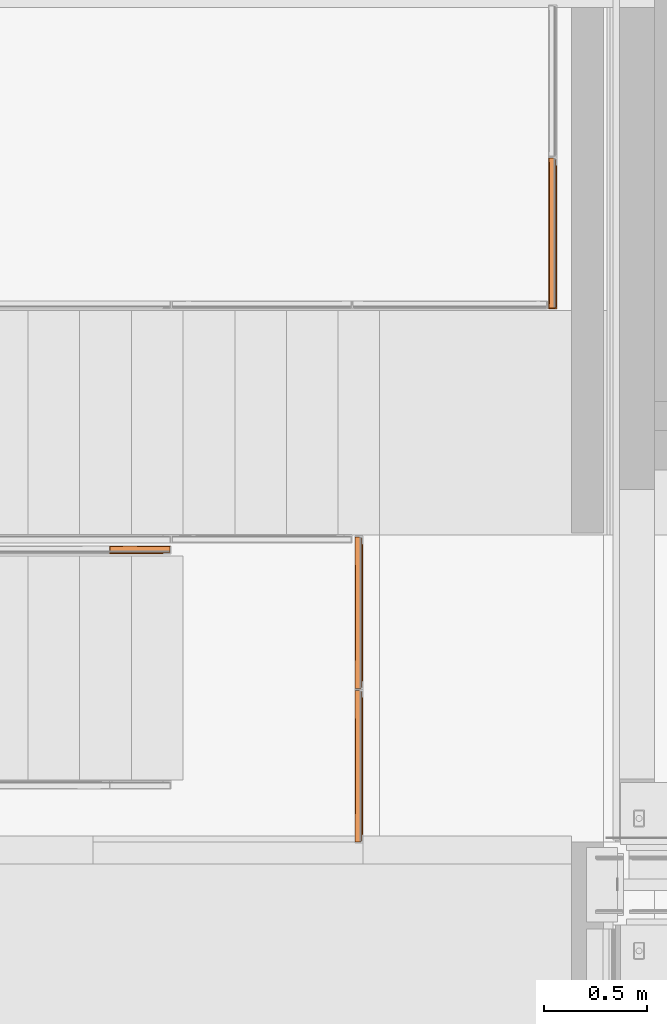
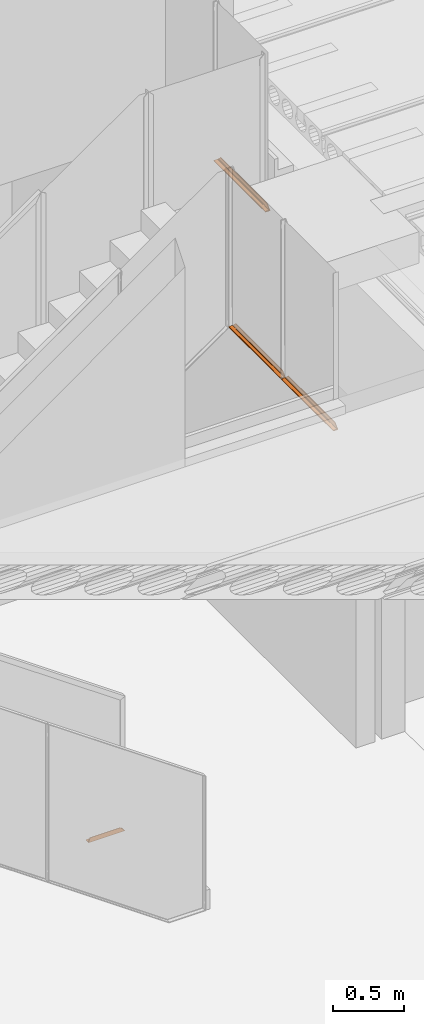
# One storey, part 229 of 230: 4 proxies.
"""IFC4X3_ADD2 building model written with IfcOpenShell, lengths in millimetres."""

from ifc_helpers import new_model, si_unit, direction, origin_with_axes, place, context, subcontext, project, spatial, triangles, source, transform, mapped, material, type_object, type_shapes, element, save


model = new_model("IFC4X3_ADD2")

# Units and contexts
model_context = context("Model", 3, precision=1e-05, world=origin_with_axes(), true_north=direction((0.0, 1.0)))
body_context = subcontext(model_context, "Body", "Model", "MODEL_VIEW")
ifc_project = project(units=[si_unit("LENGTHUNIT", "METRE", prefix="MILLI"), si_unit("AREAUNIT", "SQUARE_METRE"), si_unit("VOLUMEUNIT", "CUBIC_METRE"), si_unit("PLANEANGLEUNIT", "RADIAN"), si_unit("TIMEUNIT", "SECOND"), si_unit("MASSUNIT", "GRAM")], contexts=[model_context])

# Site, building, storey
site_placement = place(None, origin_with_axes())
site = spatial("IfcSite", under=ifc_project, at=site_placement, Name="Site", CompositionType="ELEMENT")
building_placement = place(site_placement, origin_with_axes())
building = spatial("IfcBuilding", under=site, at=building_placement, Name="IFC Building Story")
storey_placement = place(building_placement, origin_with_axes())
storey = spatial("IfcBuildingStorey", under=building, at=storey_placement, Name="ETAGE 00 (0)", Elevation=0.0)

# Proxies
ifc_material = material(Name="<Unnamed>")
building_element_proxy_type_1 = type_object("IfcBuildingElementProxyType", Name="15", PredefinedType="NOTDEFINED")
shared_shape_1 = source(origin_with_axes(), body_context, "Body", "Tessellation", [
    triangles([(37328.300592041, 1795.31745071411, 69.8795009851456), (37328.0215393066, 1796.70036048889, 69.000639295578), (37328.3377990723, 1794.49991340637, 69.9999969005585), (37328.3377990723, 1792.50003547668, 69.9999969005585), (37327.3913452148, 1797.50002098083, 66.99999833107), (37328.1959472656, 1796.05359764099, 69.5526677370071), (37328.1494384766, 1796.27960128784, 69.401514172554), (37327.9285217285, 1796.95703086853, 68.7029648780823), (37327.8006225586, 1797.17373275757, 68.297307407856), (37327.9889831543, 1796.80922012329, 68.8969392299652), (37327.6378417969, 1797.39450416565, 67.7778623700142), (37319.1941711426, 1797.50002098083, 41.00000013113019), (37315.7246154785, 1792.50003547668, 30.000001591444), (37327.7238830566, 1797.30250396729, 68.0561838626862), (37318.7732666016, 1797.65044784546, 39.6648754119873), (37318.3732910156, 1798.09417076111, 38.3966979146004), (37317.2082458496, 1830.80162200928, 34.7029076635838), (37317.0966247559, 1831.3704826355, 34.3454939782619), (37317.3012634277, 1829.49995727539, 35.0000007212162), (37316.9454711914, 1831.8454536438, 33.8704707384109), (37317.27800903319, 1830.1675037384, 34.9247850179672), (37316.7664123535, 1832.20284461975, 33.3016509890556), (37318.0151733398, 1798.80895271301, 37.2590606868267), (37317.7151916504, 1799.75904006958, 36.3090119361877), (37317.4896240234, 1800.89661598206, 35.5941868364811), (37317.3500976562, 1802.1648525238, 35.1504321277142), (37316.5664245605, 1832.42477874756, 32.6675622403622), (37316.3571350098, 1832.49991950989, 31.9999998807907), (37315.7246154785, 1832.49991950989, 30.000001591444), (37317.3012634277, 1803.49994544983, 35.0000007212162), (37574.190234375, 1794.49991340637, 69.9999969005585), (37574.190234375, 1792.50003547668, 69.9999969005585), (37575.8854797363, 1797.18899345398, 68.3050967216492), (37576.2040649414, 1797.3288105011, 67.9853851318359), (37575.1785461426, 1796.70951690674, 69.0104542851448), (37574.9948364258, 1796.52973136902, 69.1944274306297), (37574.6436950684, 1796.04749336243, 69.5449283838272), (37574.3111572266, 1795.31686935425, 69.8789695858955), (37574.4971923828, 1795.80913581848, 69.6912039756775), (37574.2344177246, 1795.0040977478, 69.9561723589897), (37577.1900512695, 1797.50002098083, 66.99999833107), (37603.18846435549, 1797.50002098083, 41.00000013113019), (37614.1901184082, 1832.49991950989, 30.000001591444), (37612.1902404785, 1832.49991950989, 31.9999998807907), (37614.1901184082, 1792.50003547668, 30.000001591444), (37610.8879943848, 1832.20284461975, 33.3016509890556), (37611.5228393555, 1832.42477874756, 32.6675622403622), (37609.8438720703, 1831.3704826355, 34.3454939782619), (37610.3182617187, 1831.8454536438, 33.8704707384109), (37609.2648376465, 1830.1675037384, 34.9247850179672), (37609.4857543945, 1830.80162200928, 34.7029076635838), (37609.190423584, 1829.49995727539, 35.0000007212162), (37609.0392700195, 1802.1648525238, 35.1504321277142), (37609.1508911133, 1802.82818412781, 35.0377277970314), (37608.595111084, 1800.89661598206, 35.5941868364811), (37608.8532348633, 1801.51823501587, 35.3367011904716), (37604.525592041, 1797.65044784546, 39.6648754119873), (37605.792956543, 1798.09417076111, 38.3966979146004), (37606.9300964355, 1798.80895271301, 37.2590606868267), (37607.8812011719, 1799.75904006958, 36.3090119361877), (37609.190423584, 1803.49994544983, 35.0000007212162)], [[1, 2, 3], [4, 3, 5], [2, 1, 6], [7, 2, 6], [8, 9, 10], [9, 5, 3], [11, 5, 9], [12, 4, 5], [13, 4, 12], [9, 14, 11], [3, 10, 9], [12, 15, 13], [15, 16, 13], [17, 18, 19], [20, 19, 18], [19, 21, 17], [22, 19, 20], [23, 24, 13], [25, 26, 13], [24, 25, 13], [27, 28, 19], [29, 30, 19], [19, 28, 29], [29, 13, 30], [19, 22, 27], [30, 13, 26], [16, 23, 13], [31, 32, 4], [4, 3, 31], [33, 14, 11], [33, 11, 5], [33, 9, 14], [5, 34, 33], [35, 8, 9], [9, 33, 35], [35, 10, 8], [35, 36, 10], [37, 7, 10], [10, 36, 37], [37, 6, 7], [38, 1, 6], [6, 39, 38], [40, 31, 1], [31, 3, 1], [1, 38, 40], [5, 41, 34], [42, 41, 12], [5, 12, 41], [43, 44, 29], [28, 29, 44], [32, 45, 13], [13, 4, 32], [13, 45, 29], [43, 29, 45], [46, 27, 28], [28, 47, 46], [46, 22, 27], [48, 20, 22], [22, 49, 48], [48, 18, 20], [50, 17, 18], [18, 51, 50], [50, 21, 17], [19, 21, 52], [50, 52, 21], [18, 48, 51], [22, 46, 49], [28, 44, 47], [53, 26, 30], [30, 54, 53], [55, 25, 26], [26, 56, 55], [12, 15, 42], [57, 42, 15], [15, 16, 57], [58, 57, 16], [16, 23, 58], [59, 58, 23], [23, 24, 59], [60, 59, 24], [24, 25, 60], [55, 60, 25], [26, 53, 56], [30, 61, 54], [52, 61, 30], [30, 19, 52], [45, 53, 54], [53, 45, 56], [54, 61, 45], [45, 61, 43], [59, 60, 45], [55, 56, 45], [60, 55, 45], [45, 58, 59], [52, 46, 47], [52, 47, 44], [52, 44, 43], [52, 50, 51], [52, 48, 49], [48, 52, 51], [52, 49, 46], [43, 61, 52], [38, 39, 37], [38, 37, 31], [40, 38, 31], [32, 31, 34], [31, 37, 36], [42, 32, 41], [57, 58, 45], [57, 45, 42], [35, 33, 31], [34, 31, 33], [34, 41, 32], [31, 36, 35], [42, 45, 32]]),
])
type_shapes(building_element_proxy_type_1, [shared_shape_1])
proxy_1_placement = place(storey_placement, origin_with_axes())
element("IfcBuildingElementProxy", 1, at=proxy_1_placement, inside=storey, type_object=building_element_proxy_type_1, material=ifc_material, Name="8:2784", ObjectType="8:2784", context=body_context, shape_type="MappedRepresentation", body=[
    mapped(shared_shape_1, transform((0.0, 0.0, 0.0))),
])
building_element_proxy_type_2 = type_object("IfcBuildingElementProxyType", Name="87", PredefinedType="NOTDEFINED")
shared_shape_2 = source(origin_with_axes(), body_context, "Body", "Tessellation", [
    triangles([(38542.1195251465, 1840.42894134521, 4039.99991455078), (38542.1195251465, 1178.701745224, 4039.99991455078), (38540.1173217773, 1178.701745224, 4039.99991455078), (38540.1173217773, 1840.42894134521, 4039.99991455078), (38542.1195251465, 1138.70178852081, 4000.00003051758), (38537.1175048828, 1149.70177116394, 4010.99994049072), (38536.959375, 1148.6176076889, 4009.9157043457), (38537.1175048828, 1175.7017829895, 4037.00009765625), (38535.6664306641, 1145.69089679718, 4006.98913879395), (38536.1059387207, 1146.33635158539, 4007.63444824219), (38536.6338134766, 1147.74280643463, 4009.0410484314), (38535.522253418, 1145.47979049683, 4006.77781448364), (38537.4151611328, 1176.95105266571, 4038.24914932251), (38539.5778198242, 1178.70261726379, 4040.00078659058), (38538.7453125, 1178.47734031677, 4039.77550964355), (38537.8616455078, 1177.70311431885, 4039.0014289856), (38531.1178710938, 1143.70177402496, 4005.00001602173), (38532.1340881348, 1143.69508838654, 4004.9933303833), (38505.1194580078, 1143.70177402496, 4005.00001602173), (38502.9521484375, 1142.85480537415, 4004.15297470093), (38503.745123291, 1143.47671508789, 4004.77502975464), (38502.1173156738, 1140.70173912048, 4001.99990844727), (38502.4126464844, 1141.94933738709, 4003.24750671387), (38502.1219665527, 1138.70178852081, 4000.00003051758), (38534.6083557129, 1144.60150108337, 4005.89967041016), (38533.8060791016, 1144.21119060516, 4005.50928726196), (38504.5776306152, 1143.70235538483, 4005.00059738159), (38533.0875183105, 1143.86121196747, 4005.15930862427), (38502.1173156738, 1880.42882537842, 4000.00003051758), (38502.1149902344, 1878.42894744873, 4001.99990844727), (38502.1173156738, 1694.55964736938, 4001.99990844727), (38502.1196411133, 1324.57103919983, 4001.99990844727), (38503.6335021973, 1325.6227191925, 4003.53150100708), (38505.1194580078, 1875.42883987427, 4004.999143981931), (38503.621875, 1693.51726913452, 4003.51464157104), (38503.5753662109, 1509.56541595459, 4003.46987686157), (38504.5218200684, 1875.4805809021, 4004.9482749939), (38503.6916381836, 1875.76442985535, 4004.66457138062), (38502.8754089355, 1876.48778686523, 4003.94106903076), (38502.7103027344, 1876.63385353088, 4003.79514770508), (38502.8614562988, 1142.70263442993, 4004.00094909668), (38542.1195251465, 1880.42882537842, 4000.00003051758), (38538.622064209, 1676.0168838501, 4038.51512145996), (38538.5755554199, 1509.56556129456, 4038.47035675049), (38538.6336914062, 1343.12324981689, 4038.52907409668), (38539.52200927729, 1840.48068237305, 4039.94817352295), (38538.6918273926, 1840.76438598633, 4039.66446990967), (38537.2895874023, 1842.45716056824, 4037.97184066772), (38537.7104919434, 1841.63380966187, 4038.79504623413), (38537.1175048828, 1677.05955276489, 4037.00009765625), (38537.8755981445, 1841.48774299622, 4038.94096755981), (38537.1175048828, 1342.07113380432, 4037.00009765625), (38537.1175048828, 1843.42890357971, 4037.00009765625), (38537.1175048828, 1689.49716567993, 4010.99994049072), (38537.1175048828, 1869.42891540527, 4010.99994049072), (38535.47109375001, 1509.54477767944, 4006.81850967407), (38531.1876342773, 1693.60767059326, 4005.0218170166), (38535.6315490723, 1873.33521766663, 4007.0934928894), (38534.2874450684, 1874.57685699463, 4005.85199890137), (38535.3176147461, 1873.75583152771, 4006.67316970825), (38533.7921264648, 1874.8172492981, 4005.6116065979), (38536.610559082, 1509.5747177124, 4008.89047622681), (38531.1876342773, 1325.5202545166, 4005.02036361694), (38533.3944763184, 1509.55422477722, 4005.94210968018), (38531.1178710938, 1509.56527061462, 4005.00001602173), (38533.2991333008, 1875.0570602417, 4005.3717956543), (38532.2457092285, 1875.33654899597, 4005.09216156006), (38536.3012756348, 1872.4410861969, 4007.98791503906), (38537.0175109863, 1870.47376441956, 4009.95494613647), (38536.6547424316, 1690.78662185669, 4008.92390441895), (38531.1178710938, 1875.42883987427, 4005.00001602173)], [[1, 2, 3], [3, 4, 1], [2, 5, 6], [6, 5, 7], [2, 6, 8], [9, 10, 5], [7, 5, 11], [11, 5, 10], [5, 12, 9], [3, 2, 13], [14, 3, 15], [16, 15, 3], [16, 3, 13], [2, 8, 13], [5, 17, 18], [19, 20, 21], [22, 23, 19], [23, 20, 19], [24, 22, 19], [5, 24, 17], [25, 12, 5], [25, 5, 26], [19, 17, 24], [19, 21, 27], [5, 28, 26], [18, 28, 5], [29, 30, 31], [29, 31, 24], [32, 22, 24], [32, 24, 31], [33, 27, 21], [33, 19, 27], [34, 35, 36], [36, 33, 19], [36, 19, 34], [33, 21, 20], [35, 37, 34], [35, 38, 37], [39, 35, 31], [31, 40, 39], [32, 41, 23], [32, 23, 22], [31, 35, 36], [36, 33, 32], [36, 32, 31], [41, 32, 33], [31, 30, 40], [35, 39, 38], [29, 24, 42], [5, 42, 24], [5, 2, 1], [1, 42, 5], [4, 43, 44], [44, 45, 3], [44, 3, 4], [3, 14, 45], [45, 14, 15], [45, 15, 16], [43, 46, 4], [43, 47, 46], [48, 49, 50], [51, 43, 50], [50, 49, 51], [52, 16, 13], [52, 13, 8], [50, 43, 44], [44, 45, 52], [44, 52, 50], [16, 52, 45], [50, 53, 48], [43, 51, 47], [6, 52, 8], [52, 6, 54], [54, 55, 53], [53, 50, 54], [54, 50, 52], [56, 57, 58], [59, 60, 57], [60, 58, 57], [57, 61, 59], [54, 6, 62], [63, 25, 26], [63, 12, 25], [63, 64, 56], [56, 9, 63], [62, 6, 7], [62, 7, 11], [57, 64, 65], [57, 66, 61], [57, 67, 66], [68, 69, 70], [58, 70, 56], [62, 70, 56], [56, 11, 62], [55, 54, 70], [70, 69, 55], [56, 11, 10], [56, 10, 9], [63, 26, 28], [63, 28, 18], [18, 17, 63], [65, 64, 63], [70, 58, 68], [57, 71, 67], [63, 9, 12], [62, 70, 54], [56, 64, 57], [19, 34, 65], [65, 34, 57], [19, 65, 63], [71, 57, 34], [63, 17, 19], [4, 48, 1], [47, 4, 46], [48, 4, 51], [51, 4, 47], [48, 51, 49], [53, 55, 1], [53, 1, 48], [1, 55, 42], [55, 69, 42], [68, 58, 42], [69, 68, 42], [42, 58, 60], [61, 66, 42], [60, 59, 42], [71, 29, 42], [66, 67, 42], [61, 42, 59], [34, 37, 38], [34, 38, 39], [39, 40, 30], [29, 34, 30], [30, 34, 39], [34, 29, 71], [71, 42, 67]]),
])
type_shapes(building_element_proxy_type_2, [shared_shape_2])
proxy_2_placement = place(storey_placement, origin_with_axes())
element("IfcBuildingElementProxy", 2, at=proxy_2_placement, inside=storey, type_object=building_element_proxy_type_2, material=ifc_material, Name="44", ObjectType="44", context=body_context, shape_type="MappedRepresentation", body=[
    mapped(shared_shape_2, transform((0.0, 0.0, 0.0))),
])
building_element_proxy_type_3 = type_object("IfcBuildingElementProxyType", Name="89", PredefinedType="NOTDEFINED")
shared_shape_3 = source(origin_with_axes(), body_context, "Body", "Tessellation", [
    triangles([(38542.1195251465, 436.974672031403, 4039.99991455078), (38540.1173217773, 436.974672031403, 4039.99991455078), (38542.1195251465, 1098.70175914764, 4039.99991455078), (38540.1173217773, 1098.70175914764, 4039.99991455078), (38537.2895874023, 1100.72997837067, 4037.97184066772), (38538.6918273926, 1099.03727645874, 4039.66446990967), (38539.52200927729, 1098.75350017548, 4039.94817352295), (38537.8755981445, 1099.76063346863, 4038.94096755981), (38537.7104919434, 1099.90670013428, 4038.79504623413), (38537.1175048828, 1101.70179405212, 4037.00009765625), (38537.1175048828, 1127.70180587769, 4010.99994049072), (38542.1195251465, 1138.70178852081, 4000.00003051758), (38537.0175109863, 1128.74665489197, 4009.95494613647), (38536.3012756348, 1130.71397666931, 4007.98791503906), (38535.6315490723, 1131.60810813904, 4007.0934928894), (38535.3176147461, 1132.02864933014, 4006.67316970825), (38533.7921264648, 1133.09021244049, 4005.6116065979), (38533.2991333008, 1133.33002338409, 4005.3717956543), (38534.2874450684, 1132.84974746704, 4005.85199890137), (38531.1178710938, 1133.70180301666, 4005.00001602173), (38502.1149902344, 1138.70178852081, 4000.00003051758), (38532.2457092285, 1133.60943946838, 4005.09216156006), (38505.1194580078, 1133.70180301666, 4005.00001602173), (38504.5218200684, 1133.75347137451, 4004.9482749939), (38503.6916381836, 1134.03724765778, 4004.66457138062), (38502.8754089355, 1134.76067733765, 4003.94106903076), (38502.7103027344, 1134.9067440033, 4003.79514770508), (38502.1173156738, 1136.70176525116, 4001.99990844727), (38502.1173156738, 952.832465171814, 4001.99990844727), (38502.1196411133, 396.974642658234, 4000.00003051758), (38502.1196411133, 582.843966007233, 4001.99990844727), (38502.1196411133, 398.974665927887, 4001.99990844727), (38503.6335021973, 583.895645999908, 4003.53121032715), (38504.5776306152, 401.975354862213, 4005.00059738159), (38503.745123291, 401.749641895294, 4004.77502975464), (38505.1194580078, 401.97477350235, 4005.00001602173), (38503.6242004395, 951.790232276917, 4003.51464157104), (38503.5776916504, 767.838379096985, 4003.46958618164), (38502.9521484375, 401.127732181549, 4004.15297470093), (38502.8614562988, 400.975561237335, 4004.00094909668), (38502.4126464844, 400.222264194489, 4003.24750671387), (38542.1195251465, 396.974642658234, 4000.00003051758), (38538.622064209, 934.289846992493, 4038.51512145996), (38538.5755554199, 767.838379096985, 4038.47035675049), (38538.6336914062, 601.396031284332, 4038.52907409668), (38539.5778198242, 436.975544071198, 4040.00078659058), (38538.7453125, 436.750267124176, 4039.77550964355), (38537.9523376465, 436.129520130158, 4039.1549079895), (38537.1175048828, 935.332515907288, 4037.00009765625), (38537.1175048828, 600.343915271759, 4037.00009765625), (38537.8616455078, 435.976041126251, 4039.0014289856), (38537.4151611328, 435.223906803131, 4038.24914932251), (38537.1175048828, 433.974709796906, 4037.00009765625), (38537.1175048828, 407.974697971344, 4010.99994049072), (38537.1175048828, 947.7699834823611, 4010.99994049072), (38535.47109375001, 767.8176681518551, 4006.81850967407), (38531.1876342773, 951.880561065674, 4005.0218170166), (38536.610559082, 767.847608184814, 4008.89047622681), (38531.1876342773, 583.793181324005, 4005.02036361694), (38534.6083557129, 402.874427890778, 4005.89967041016), (38533.8060791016, 402.48419008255, 4005.50928726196), (38535.522253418, 403.75271730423, 4006.77781448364), (38533.3944763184, 767.8271152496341, 4005.94210968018), (38535.6664306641, 403.963750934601, 4006.98913879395), (38536.959375, 406.890461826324, 4009.9157043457), (38536.6338134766, 406.015805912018, 4009.0410484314), (38531.1178710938, 767.838233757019, 4005.00001602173), (38536.6547424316, 949.059439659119, 4008.92390441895), (38536.1059387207, 404.609351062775, 4007.63444824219), (38533.0875183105, 402.134211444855, 4005.15930862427), (38532.1340881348, 401.9680878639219, 4004.9933303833), (38531.1178710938, 401.97477350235, 4005.00001602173)], [[1, 2, 3], [4, 3, 2], [4, 5, 3], [6, 4, 7], [5, 4, 8], [8, 4, 6], [5, 8, 9], [10, 11, 3], [10, 3, 5], [3, 11, 12], [11, 13, 12], [14, 15, 12], [13, 14, 12], [12, 15, 16], [17, 18, 12], [16, 19, 12], [20, 21, 12], [18, 22, 12], [17, 12, 19], [23, 24, 25], [23, 25, 26], [26, 27, 28], [21, 23, 28], [28, 23, 26], [23, 21, 20], [20, 12, 22], [21, 28, 29], [21, 29, 30], [31, 32, 30], [31, 30, 29], [33, 34, 35], [33, 36, 34], [23, 37, 38], [38, 33, 36], [38, 36, 23], [33, 35, 39], [37, 24, 23], [37, 25, 24], [26, 37, 29], [29, 27, 26], [31, 40, 41], [31, 41, 32], [29, 37, 38], [38, 33, 31], [38, 31, 29], [40, 31, 33], [29, 28, 27], [37, 26, 25], [21, 30, 12], [42, 12, 30], [42, 1, 3], [3, 12, 42], [4, 43, 44], [44, 45, 2], [44, 2, 4], [2, 46, 45], [45, 46, 47], [45, 47, 48], [43, 7, 4], [43, 6, 7], [5, 9, 49], [8, 43, 49], [49, 9, 8], [50, 51, 52], [50, 52, 53], [49, 43, 44], [44, 45, 50], [44, 50, 49], [51, 50, 45], [49, 10, 5], [43, 8, 6], [54, 50, 53], [50, 54, 55], [55, 11, 10], [10, 49, 55], [55, 49, 50], [56, 57, 15], [19, 16, 57], [16, 15, 57], [57, 17, 19], [55, 54, 58], [59, 60, 61], [59, 62, 60], [59, 63, 56], [56, 64, 59], [58, 54, 65], [58, 65, 66], [57, 63, 67], [57, 18, 17], [57, 22, 18], [14, 13, 68], [15, 68, 56], [58, 68, 56], [56, 66, 58], [11, 55, 68], [68, 13, 11], [56, 66, 69], [56, 69, 64], [59, 61, 70], [59, 70, 71], [71, 72, 59], [67, 63, 59], [68, 15, 14], [57, 20, 22], [59, 64, 62], [58, 68, 55], [56, 63, 57], [36, 23, 67], [67, 23, 57], [36, 67, 59], [20, 57, 23], [59, 72, 36], [1, 42, 54], [54, 42, 65], [1, 54, 53], [64, 69, 42], [65, 42, 66], [66, 42, 69], [42, 62, 64], [2, 1, 52], [46, 2, 47], [51, 47, 2], [51, 2, 52], [1, 53, 52], [42, 72, 71], [36, 40, 35], [32, 41, 36], [41, 40, 36], [30, 32, 36], [42, 30, 72], [60, 62, 42], [60, 42, 61], [36, 72, 30], [36, 35, 34], [42, 70, 61], [71, 70, 42]]),
])
type_shapes(building_element_proxy_type_3, [shared_shape_3])
proxy_3_placement = place(storey_placement, origin_with_axes())
element("IfcBuildingElementProxy", 3, at=proxy_3_placement, inside=storey, type_object=building_element_proxy_type_3, material=ifc_material, Name="45", ObjectType="45", context=body_context, shape_type="MappedRepresentation", body=[
    mapped(shared_shape_3, transform((0.0, 0.0, 0.0))),
])
building_element_proxy_type_4 = type_object("IfcBuildingElementProxyType", Name="91", PredefinedType="NOTDEFINED")
shared_shape_4 = source(origin_with_axes(), body_context, "Body", "Tessellation", [
    triangles([(39479.190234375, 3017.49982681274, 4029.99994354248), (39477.1903564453, 3017.49982681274, 4029.99994354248), (39479.190234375, 3672.49996261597, 4029.99994354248), (39477.1903564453, 3672.49996261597, 4029.99994354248), (39474.3579711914, 3674.52832717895, 4027.97186965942), (39475.7625366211, 3672.83540725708, 4029.66449890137), (39476.5950439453, 3672.5517036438, 4029.94820251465), (39474.9439819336, 3673.55890960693, 4028.94099655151), (39474.7812011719, 3673.70483093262, 4028.79507522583), (39474.1905395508, 3675.50007019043, 4027.00012664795), (39474.1905395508, 3701.49993667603, 4000.99996948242), (39479.190234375, 3712.5001373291, 3990.00005950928), (39474.0882202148, 3702.54493103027, 3999.95497512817), (39473.3719848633, 3704.51225280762, 3997.98794403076), (39472.7022583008, 3705.40638427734, 3997.0935218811), (39472.3906494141, 3705.82699813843, 3996.67319869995), (39470.8651611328, 3706.88856124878, 3995.6116355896), (39470.3721679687, 3707.12808151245, 3995.371824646), (39471.3581542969, 3706.64787826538, 3995.85202789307), (39468.1909057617, 3707.49986114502, 3995.00004501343), (39439.1880249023, 3712.5001373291, 3990.00005950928), (39469.31641845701, 3707.40771560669, 3995.09219055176), (39442.1878417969, 3707.49986114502, 3995.00004501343), (39441.5925292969, 3707.55160217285, 3994.9483039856), (39440.7646728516, 3707.83559646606, 3994.66460037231), (39439.94611816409, 3708.55880813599, 3993.94109802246), (39439.7786865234, 3708.7050201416, 3993.79517669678), (39439.1880249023, 3710.49996871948, 3991.99993743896), (39439.1880249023, 3528.31254272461, 3991.99993743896), (39439.1926757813, 2977.49994277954, 3990.00005950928), (39439.1880249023, 3161.68753738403, 3991.99993743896), (39439.1926757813, 2979.50011138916, 3991.99993743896), (39440.7042114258, 3162.73921737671, 3993.53152999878), (39441.6483398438, 2982.50050964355, 3995.00062637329), (39440.8158325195, 2982.2749420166, 3994.77505874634), (39442.1878417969, 2982.49992828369, 3995.00004501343), (39440.694909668, 3527.27016448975, 3993.51467056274), (39440.6484008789, 3345.00018539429, 3993.46961517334), (39440.0205322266, 2981.65288696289, 3994.15300369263), (39439.93216552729, 2981.50086135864, 3994.00097808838), (39439.4856811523, 2980.74741897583, 3993.24753570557), (39479.190234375, 2977.49994277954, 3990.00005950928), (39475.6927734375, 3509.76977920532, 4028.51515045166), (39475.6462646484, 3345.00018539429, 4028.47038574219), (39475.7067260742, 3180.23960266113, 4028.52939376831), (39476.6462036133, 3017.50069885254, 4030.00081558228), (39475.818347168, 3017.27542190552, 4029.77553863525), (39475.023046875, 3016.65482025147, 4029.1549369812), (39474.1905395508, 3510.81244812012, 4027.00012664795), (39474.1905395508, 3179.18763198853, 4027.00012664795), (39474.9300292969, 3016.50134124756, 4029.0014579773), (39474.4835449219, 3015.7493522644, 4028.24917831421), (39474.1905395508, 3014.50000991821, 4027.00012664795), (39474.1905395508, 2988.49985275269, 4000.99996948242), (39474.1905395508, 3523.25006103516, 4000.99996948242), (39472.5394775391, 3344.97954711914, 3996.81853866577), (39468.2606689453, 3527.36056594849, 3995.02213668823), (39473.67894287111, 3345.0094871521, 3998.89050521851), (39468.2606689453, 3162.63689804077, 3995.01981124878), (39471.6790649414, 2983.39958267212, 3995.89969940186), (39470.9349243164, 2982.9501914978, 3995.45030822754), (39472.5952880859, 2984.27801742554, 3996.77784347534), (39470.4651855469, 3344.98884887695, 3995.94213867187), (39472.739465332, 2984.48905105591, 3996.98916778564), (39474.032409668, 2987.4159072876, 3999.9157333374), (39473.7021972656, 2986.54096069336, 3999.0410774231), (39468.1909057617, 3344.99989471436, 3995.00004501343), (39473.7254516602, 3524.53951721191, 3998.92393341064), (39473.1766479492, 2985.13465118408, 3997.63447723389), (39470.1582275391, 2982.65951156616, 3995.15933761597), (39469.2047973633, 2982.49324264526, 3994.993359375), (39468.1909057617, 2982.49992828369, 3995.00004501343)], [[1, 2, 3], [4, 3, 2], [4, 5, 3], [6, 4, 7], [5, 4, 8], [8, 4, 6], [5, 8, 9], [10, 11, 3], [10, 3, 5], [3, 11, 12], [11, 13, 12], [14, 15, 12], [13, 14, 12], [12, 15, 16], [17, 18, 12], [16, 19, 12], [20, 21, 12], [18, 22, 12], [17, 12, 19], [23, 24, 25], [23, 25, 26], [26, 27, 28], [21, 23, 28], [28, 23, 26], [23, 21, 20], [20, 12, 22], [21, 28, 29], [21, 29, 30], [31, 32, 30], [31, 30, 29], [33, 34, 35], [33, 36, 34], [23, 37, 38], [38, 33, 36], [38, 36, 23], [33, 35, 39], [37, 24, 23], [37, 25, 24], [26, 37, 29], [29, 27, 26], [31, 40, 41], [31, 41, 32], [29, 37, 38], [38, 33, 31], [38, 31, 29], [40, 31, 33], [29, 28, 27], [37, 26, 25], [21, 30, 12], [42, 12, 30], [42, 1, 3], [3, 12, 42], [4, 43, 44], [44, 45, 2], [44, 2, 4], [2, 46, 45], [45, 46, 47], [45, 47, 48], [43, 7, 4], [43, 6, 7], [5, 9, 49], [8, 43, 49], [49, 9, 8], [50, 51, 52], [50, 52, 53], [49, 43, 44], [44, 45, 50], [44, 50, 49], [51, 50, 45], [49, 10, 5], [43, 8, 6], [54, 50, 53], [50, 54, 55], [55, 11, 10], [10, 49, 55], [55, 49, 50], [56, 57, 15], [19, 16, 57], [16, 15, 57], [57, 17, 19], [55, 54, 58], [59, 60, 61], [59, 62, 60], [59, 63, 56], [56, 64, 59], [58, 54, 65], [58, 65, 66], [57, 63, 67], [57, 18, 17], [57, 22, 18], [14, 13, 68], [15, 68, 56], [58, 68, 56], [56, 66, 58], [11, 55, 68], [68, 13, 11], [56, 66, 69], [56, 69, 64], [59, 61, 70], [71, 72, 59], [59, 70, 71], [67, 63, 59], [68, 15, 14], [57, 20, 22], [59, 64, 62], [58, 68, 55], [56, 63, 57], [36, 23, 67], [67, 23, 57], [36, 67, 59], [20, 57, 23], [59, 72, 36], [1, 42, 54], [54, 42, 65], [1, 54, 53], [64, 69, 42], [65, 42, 66], [66, 42, 69], [42, 62, 64], [2, 1, 52], [46, 2, 47], [51, 47, 2], [51, 2, 52], [1, 53, 52], [42, 72, 71], [36, 40, 35], [32, 41, 36], [41, 40, 36], [30, 32, 36], [42, 30, 72], [60, 62, 42], [61, 60, 42], [36, 72, 30], [36, 35, 34], [61, 42, 70], [71, 70, 42]]),
])
type_shapes(building_element_proxy_type_4, [shared_shape_4])
proxy_4_placement = place(storey_placement, origin_with_axes())
element("IfcBuildingElementProxy", 4, at=proxy_4_placement, inside=storey, type_object=building_element_proxy_type_4, material=ifc_material, Name="46", ObjectType="46", context=body_context, shape_type="MappedRepresentation", body=[
    mapped(shared_shape_4, transform((0.0, 0.0, 0.0))),
])

save(model, "model.ifc")
